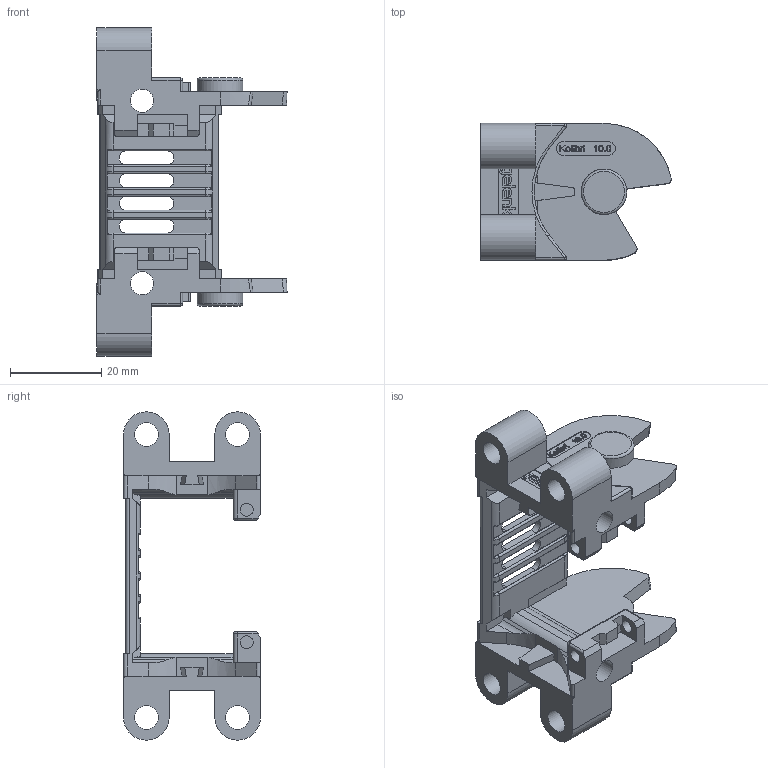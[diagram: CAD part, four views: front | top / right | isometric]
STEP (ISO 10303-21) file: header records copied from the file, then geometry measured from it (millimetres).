
FILE_DESCRIPTION((''),'2;1');
FILE_NAME('E:\Uebbing\PARAMETERKETTEN\KOLIBRI\Kol_30_050_0\Kol 30_050_0 Stirnflansch Zapfen.stp','2017-04-03T10:12:46',('Nutzer'),(''),'Autodesk Inventor 10','Autodesk Inventor 10','');
FILE_SCHEMA(('AUTOMOTIVE_DESIGN { 1 0 10303 214 1 1 1 1 }'));
Length unit declared in the file: millimetre
Products named in the file (1): Kol 30_050_0 Stirnflansch Zapfen
Bounding box: 41.71 x 30 x 72 mm (x, y, z)
Volume: 14797.5 mm3; surface area: 12141.7 mm2
Topology: 1 solids, 1 shells, 589 faces, 1613 edges, 1053 vertices
Faces by surface type: plane 326, cylinder 133, bspline 92, torus 28, sphere 6, cone 4
Full cylindrical faces by diameter (mm): 1.166 x1, 2.048 x1, 2.8 x4, 5.1 x2, 5.2 x4, 10 x2
Entity records: 19751 total; most frequent: CARTESIAN_POINT 5240, ORIENTED_EDGE 3170, DIRECTION 2728, EDGE_CURVE 1585, VERTEX_POINT 1047, VECTOR 1014, LINE 1014, AXIS2_PLACEMENT_3D 857
